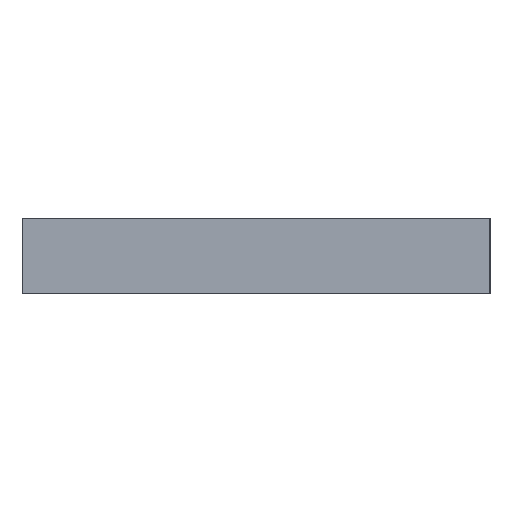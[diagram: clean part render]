
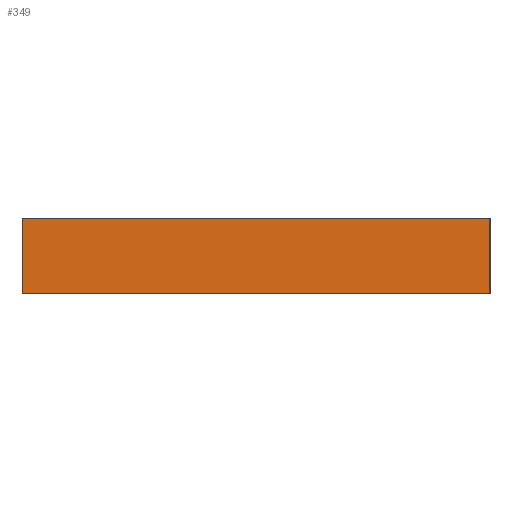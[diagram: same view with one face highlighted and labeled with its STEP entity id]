
A CAD part, left-side view. The second image highlights one B-rep face of the part: STEP entity #349.
In plain terms, the highlighted planar face has unit normal (-1, 0, 0).
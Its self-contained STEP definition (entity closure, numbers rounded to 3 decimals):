
#11 = ORIENTED_EDGE ( 'NONE', *, *, #583, .T. ) ;
#28 = CARTESIAN_POINT ( 'NONE',  ( -95., 258.9, 49. ) ) ;
#61 = DIRECTION ( 'NONE',  ( 0., 0., -1. ) ) ;
#118 = DIRECTION ( 'NONE',  ( 0., -1., 0. ) ) ;
#219 = ORIENTED_EDGE ( 'NONE', *, *, #1102, .T. ) ;
#220 = PLANE ( 'NONE',  #885 ) ;
#261 = ORIENTED_EDGE ( 'NONE', *, *, #454, .F. ) ;
#320 = LINE ( 'NONE', #28, #673 ) ;
#345 = CARTESIAN_POINT ( 'NONE',  ( -95., 159.9, 49. ) ) ;
#349 = ADVANCED_FACE ( 'NONE', ( #1357 ), #220, .F. ) ;
#371 = DIRECTION ( 'NONE',  ( 0., -1., 0. ) ) ;
#377 = LINE ( 'NONE', #601, #410 ) ;
#383 = VERTEX_POINT ( 'NONE', #456 ) ;
#390 = CARTESIAN_POINT ( 'NONE',  ( -95., 159.9, 49. ) ) ;
#392 = LINE ( 'NONE', #674, #1219 ) ;
#410 = VECTOR ( 'NONE', #1052, 1000. ) ;
#448 = VECTOR ( 'NONE', #61, 1000. ) ;
#454 = EDGE_CURVE ( 'NONE', #383, #1015, #320, .T. ) ;
#456 = CARTESIAN_POINT ( 'NONE',  ( -95., 258.9, 49. ) ) ;
#525 = VERTEX_POINT ( 'NONE', #815 ) ;
#583 = EDGE_CURVE ( 'NONE', #383, #525, #377, .T. ) ;
#601 = CARTESIAN_POINT ( 'NONE',  ( -95., 258.9, 49. ) ) ;
#673 = VECTOR ( 'NONE', #371, 1000. ) ;
#674 = CARTESIAN_POINT ( 'NONE',  ( -95., 258.9, 33. ) ) ;
#815 = CARTESIAN_POINT ( 'NONE',  ( -95., 258.9, 33. ) ) ;
#883 = EDGE_LOOP ( 'NONE', ( #219, #1261, #261, #11 ) ) ;
#885 = AXIS2_PLACEMENT_3D ( 'NONE', #989, #1091, #1095 ) ;
#989 = CARTESIAN_POINT ( 'NONE',  ( -95., 258.9, 49. ) ) ;
#1013 = LINE ( 'NONE', #390, #448 ) ;
#1015 = VERTEX_POINT ( 'NONE', #345 ) ;
#1052 = DIRECTION ( 'NONE',  ( 0., 0., -1. ) ) ;
#1091 = DIRECTION ( 'NONE',  ( 1., 0., 0. ) ) ;
#1095 = DIRECTION ( 'NONE',  ( 0., 1., 0. ) ) ;
#1102 = EDGE_CURVE ( 'NONE', #525, #1291, #392, .T. ) ;
#1219 = VECTOR ( 'NONE', #118, 1000. ) ;
#1259 = CARTESIAN_POINT ( 'NONE',  ( -95., 159.9, 33. ) ) ;
#1261 = ORIENTED_EDGE ( 'NONE', *, *, #1381, .F. ) ;
#1291 = VERTEX_POINT ( 'NONE', #1259 ) ;
#1357 = FACE_OUTER_BOUND ( 'NONE', #883, .T. ) ;
#1381 = EDGE_CURVE ( 'NONE', #1015, #1291, #1013, .T. ) ;
